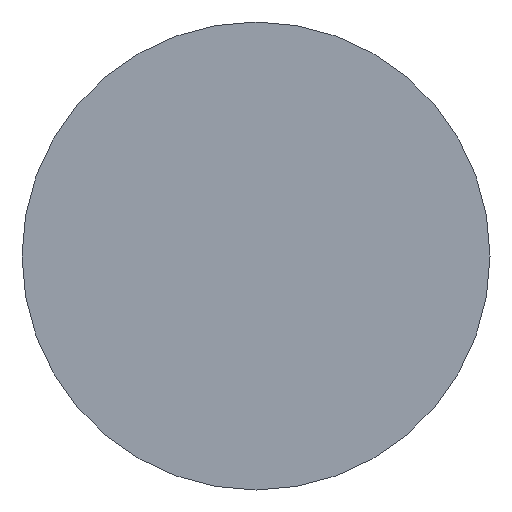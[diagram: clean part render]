
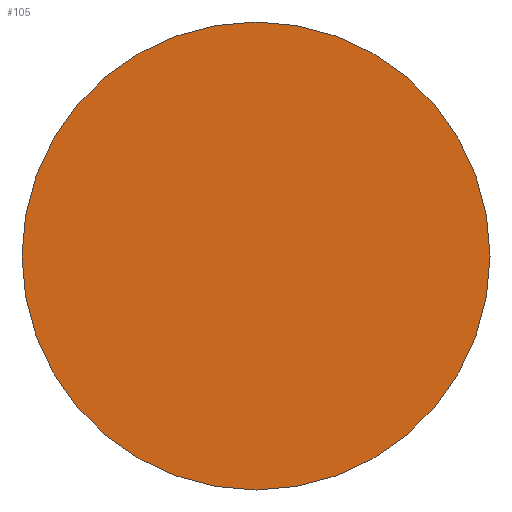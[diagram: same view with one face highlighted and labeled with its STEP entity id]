
A CAD part, front view. The second image highlights one B-rep face of the part: STEP entity #105.
In plain terms, the highlighted planar face has unit normal (0, -1, 0).
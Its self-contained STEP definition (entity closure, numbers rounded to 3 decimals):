
#21 = EDGE_CURVE('',#22,#22,#24,.T.);
#22 = VERTEX_POINT('',#23);
#23 = CARTESIAN_POINT('',(-332.,-207.913,-32.));
#24 = SURFACE_CURVE('',#25,(#30,#42),.PCURVE_S1.);
#25 = CIRCLE('',#26,16.);
#26 = AXIS2_PLACEMENT_3D('',#27,#28,#29);
#27 = CARTESIAN_POINT('',(-332.,-207.913,-16.));
#28 = DIRECTION('',(0.,-1.,0.));
#29 = DIRECTION('',(0.,-0.,-1.));
#30 = PCURVE('',#31,#36);
#31 = CYLINDRICAL_SURFACE('',#32,16.);
#32 = AXIS2_PLACEMENT_3D('',#33,#34,#35);
#33 = CARTESIAN_POINT('',(-332.,-165.913,-16.));
#34 = DIRECTION('',(0.,-1.,0.));
#35 = DIRECTION('',(0.,-0.,-1.));
#36 = DEFINITIONAL_REPRESENTATION('',(#37),#41);
#37 = LINE('',#38,#39);
#38 = CARTESIAN_POINT('',(0.,42.));
#39 = VECTOR('',#40,1.);
#40 = DIRECTION('',(1.,0.));
#41 = ( GEOMETRIC_REPRESENTATION_CONTEXT(2) 
PARAMETRIC_REPRESENTATION_CONTEXT() REPRESENTATION_CONTEXT('2D SPACE',''
  ) );
#42 = PCURVE('',#43,#48);
#43 = PLANE('',#44);
#44 = AXIS2_PLACEMENT_3D('',#45,#46,#47);
#45 = CARTESIAN_POINT('',(-332.,-207.913,-16.));
#46 = DIRECTION('',(0.,-1.,0.));
#47 = DIRECTION('',(0.,-0.,-1.));
#48 = DEFINITIONAL_REPRESENTATION('',(#49),#53);
#49 = CIRCLE('',#50,16.);
#50 = AXIS2_PLACEMENT_2D('',#51,#52);
#51 = CARTESIAN_POINT('',(0.,0.));
#52 = DIRECTION('',(1.,0.));
#53 = ( GEOMETRIC_REPRESENTATION_CONTEXT(2) 
PARAMETRIC_REPRESENTATION_CONTEXT() REPRESENTATION_CONTEXT('2D SPACE',''
  ) );
#105 = ADVANCED_FACE('',(#106),#43,.T.);
#106 = FACE_BOUND('',#107,.T.);
#107 = EDGE_LOOP('',(#108));
#108 = ORIENTED_EDGE('',*,*,#21,.T.);
